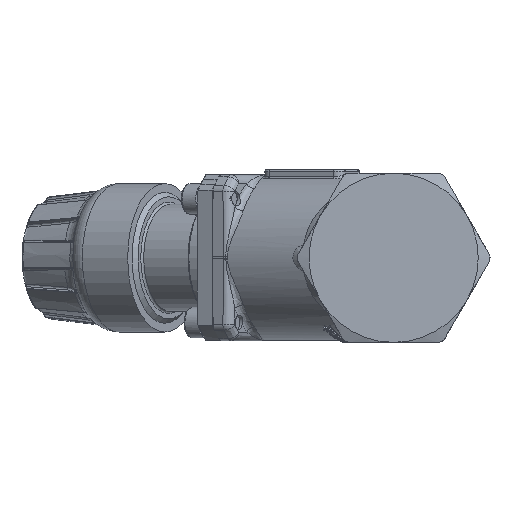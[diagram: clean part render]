
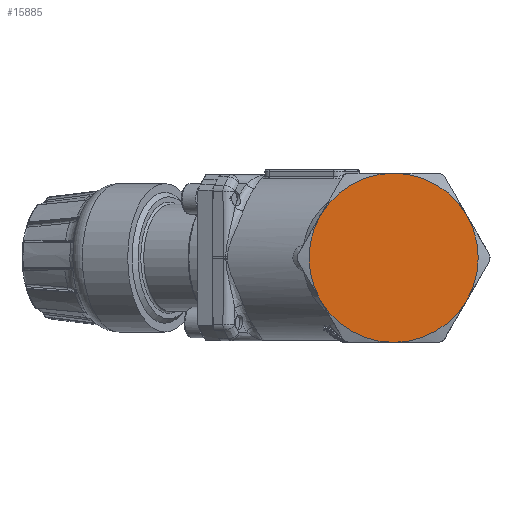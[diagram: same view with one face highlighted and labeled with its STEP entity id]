
A CAD part, left-side view. The second image highlights one B-rep face of the part: STEP entity #15885.
In plain terms, the highlighted planar face has unit normal (-1, 0, 0).
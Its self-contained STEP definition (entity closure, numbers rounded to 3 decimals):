
#1932=PLANE($,#16899);
#2234=CIRCLE($,#16900,19.375);
#2235=CIRCLE($,#16901,19.375);
#2236=CIRCLE($,#16902,19.375);
#2237=CIRCLE($,#16903,19.375);
#2238=CIRCLE($,#16904,19.375);
#2239=CIRCLE($,#16905,19.375);
#2814=FACE_OUTER_BOUND($,#3805,.T.);
#3805=EDGE_LOOP($,(#10095,#10096,#10097,#10098,#10099,#10100));
#6185=VERTEX_POINT($,#27405);
#6186=VERTEX_POINT($,#27406);
#6187=VERTEX_POINT($,#27408);
#6188=VERTEX_POINT($,#27410);
#6189=VERTEX_POINT($,#27412);
#6190=VERTEX_POINT($,#27414);
#7674=EDGE_CURVE($,#6185,#6186,#2234,.T.);
#7675=EDGE_CURVE($,#6186,#6187,#2235,.T.);
#7676=EDGE_CURVE($,#6187,#6188,#2236,.T.);
#7677=EDGE_CURVE($,#6188,#6189,#2237,.T.);
#7678=EDGE_CURVE($,#6189,#6190,#2238,.T.);
#7679=EDGE_CURVE($,#6190,#6185,#2239,.T.);
#10095=ORIENTED_EDGE($,*,*,#7674,.T.);
#10096=ORIENTED_EDGE($,*,*,#7675,.T.);
#10097=ORIENTED_EDGE($,*,*,#7676,.T.);
#10098=ORIENTED_EDGE($,*,*,#7677,.T.);
#10099=ORIENTED_EDGE($,*,*,#7678,.T.);
#10100=ORIENTED_EDGE($,*,*,#7679,.T.);
#15885=ADVANCED_FACE($,(#2814),#1932,.F.);
#16899=AXIS2_PLACEMENT_3D($,#27404,#18012,#18013);
#16900=AXIS2_PLACEMENT_3D($,#27407,#18014,#18015);
#16901=AXIS2_PLACEMENT_3D($,#27409,#18016,#18017);
#16902=AXIS2_PLACEMENT_3D($,#27411,#18018,#18019);
#16903=AXIS2_PLACEMENT_3D($,#27413,#18020,#18021);
#16904=AXIS2_PLACEMENT_3D($,#27415,#18022,#18023);
#16905=AXIS2_PLACEMENT_3D($,#27416,#18024,#18025);
#18012=DIRECTION('center_axis',(1.,0.,0.));
#18013=DIRECTION('ref_axis',(0.,0.,-1.));
#18014=DIRECTION('center_axis',(-1.,0.,0.));
#18015=DIRECTION('ref_axis',(0.,1.,0.));
#18016=DIRECTION('center_axis',(-1.,0.,0.));
#18017=DIRECTION('ref_axis',(0.,1.,0.));
#18018=DIRECTION('center_axis',(-1.,0.,0.));
#18019=DIRECTION('ref_axis',(0.,1.,0.));
#18020=DIRECTION('center_axis',(-1.,0.,0.));
#18021=DIRECTION('ref_axis',(0.,1.,0.));
#18022=DIRECTION('center_axis',(-1.,0.,0.));
#18023=DIRECTION('ref_axis',(0.,1.,0.));
#18024=DIRECTION('center_axis',(-1.,0.,0.));
#18025=DIRECTION('ref_axis',(0.,1.,0.));
#27404=CARTESIAN_POINT('Origin',(-32.,0.,0.));
#27405=CARTESIAN_POINT('',(-32.,0.,19.375));
#27406=CARTESIAN_POINT('',(-32.,16.779,9.687));
#27407=CARTESIAN_POINT('Origin',(-32.,0.,0.));
#27408=CARTESIAN_POINT('',(-32.,16.779,-9.688));
#27409=CARTESIAN_POINT('Origin',(-32.,0.,0.));
#27410=CARTESIAN_POINT('',(-32.,0.,-19.375));
#27411=CARTESIAN_POINT('Origin',(-32.,0.,0.));
#27412=CARTESIAN_POINT('',(-32.,-16.779,-9.688));
#27413=CARTESIAN_POINT('Origin',(-32.,0.,0.));
#27414=CARTESIAN_POINT('',(-32.,-16.779,9.687));
#27415=CARTESIAN_POINT('Origin',(-32.,0.,0.));
#27416=CARTESIAN_POINT('Origin',(-32.,0.,0.));
